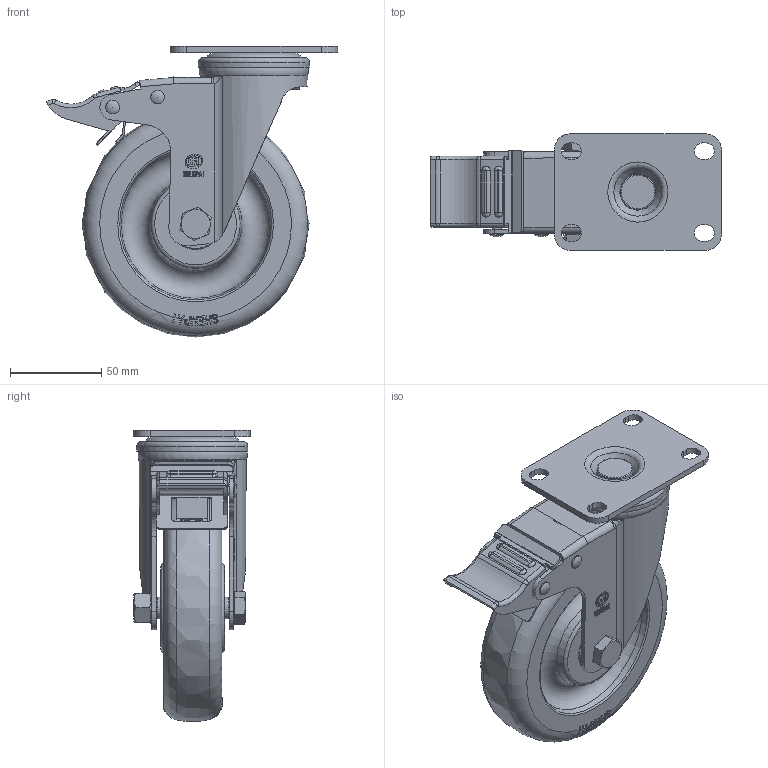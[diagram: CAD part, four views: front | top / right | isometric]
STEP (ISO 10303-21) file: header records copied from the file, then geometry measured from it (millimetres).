
FILE_DESCRIPTION(/* description */ (''),/* implementation_level */ '2;1');
FILE_NAME(/* name */ '20D11_5_F.stp',/* time_stamp */ '2022-10-17T12:46:48+08:00',/* author */ (''),/* organization */ (''),/* preprocessor_version */ 'ST-DEVELOPER v14',/* originating_system */ 'SIEMENS PLM Software NX 8.0',/* authorisation */ '');
FILE_SCHEMA (('AUTOMOTIVE_DESIGN { 1 0 10303 214 3 1 1 1 }'));
Length unit declared in the file: millimetre
Products named in the file (1): 20D11_5_F
Bounding box: 159.97 x 64.25 x 159.88 mm (x, y, z)
Volume: 409892.3 mm3; surface area: 116545.3 mm2
Topology: 1 solids, 2 shells, 1094 faces, 3219 edges, 2126 vertices
Faces by surface type: plane 562, cylinder 276, torus 114, cone 44, sphere 44, extrusion 34, bspline 20
Full cylindrical faces by diameter (mm): 4 x2, 5 x2, 5.2 x7, 7.5 x2, 10 x2, 10.3 x2, 11.8 x3, 12 x2, 12.2 x1, 12.496 x1, 16 x1, 16.8 x1, 24 x1, 28 x2, 30.122 x1, 45.996 x1, 54 x1, 56 x1, 57.6 x1, 59 x1, 61 x1
Entity records: 41816 total; most frequent: CARTESIAN_POINT 15291, ORIENTED_EDGE 5870, DIRECTION 4903, EDGE_CURVE 2935, VERTEX_POINT 1986, AXIS2_PLACEMENT_3D 1801, VECTOR 1301, EDGE_LOOP 1283
